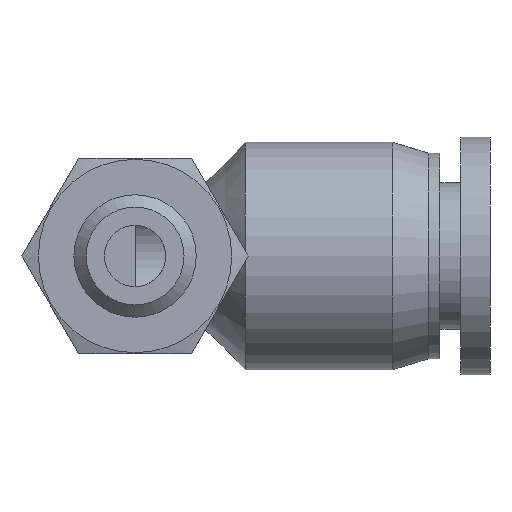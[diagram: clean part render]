
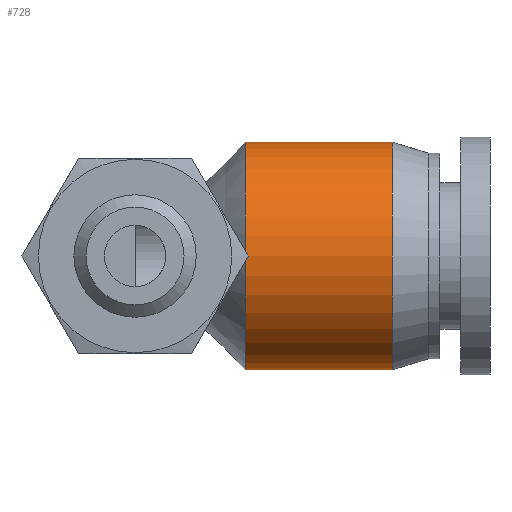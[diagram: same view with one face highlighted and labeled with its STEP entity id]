
A CAD part, front view. The second image highlights one B-rep face of the part: STEP entity #728.
In plain terms, the highlighted cylindrical face has radius 4.65 mm (diameter 9.3 mm), a full revolution.
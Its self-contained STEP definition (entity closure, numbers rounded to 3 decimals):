
#685=CARTESIAN_POINT('',(4.5,4.65,0.0));
#686=VERTEX_POINT('',#685);
#687=CARTESIAN_POINT('',(4.5,0.0,0.0));
#688=DIRECTION('',(1.0,0.0,0.0));
#689=DIRECTION('',(0.0,1.0,0.0));
#690=AXIS2_PLACEMENT_3D('',#687,#688,#689);
#691=CIRCLE('',#690,4.65);
#692=EDGE_CURVE('',#686,#686,#691,.T.);
#709=CARTESIAN_POINT('',(7.5,0.0,0.0));
#710=DIRECTION('',(1.0,0.0,0.0));
#711=DIRECTION('',(0.0,1.0,0.0));
#712=AXIS2_PLACEMENT_3D('',#709,#710,#711);
#713=CYLINDRICAL_SURFACE('',#712,4.65);
#714=CARTESIAN_POINT('',(10.5,4.65,0.0));
#715=VERTEX_POINT('',#714);
#716=CARTESIAN_POINT('',(10.5,0.0,0.0));
#717=DIRECTION('',(1.0,0.0,0.0));
#718=DIRECTION('',(0.0,1.0,0.0));
#719=AXIS2_PLACEMENT_3D('',#716,#717,#718);
#720=CIRCLE('',#719,4.65);
#721=EDGE_CURVE('',#715,#715,#720,.T.);
#722=ORIENTED_EDGE('',*,*,#721,.F.);
#723=EDGE_LOOP('',(#722));
#724=FACE_OUTER_BOUND('',#723,.T.);
#725=ORIENTED_EDGE('',*,*,#692,.T.);
#726=EDGE_LOOP('',(#725));
#727=FACE_BOUND('',#726,.T.);
#728=ADVANCED_FACE('',(#724,#727),#713,.T.);
